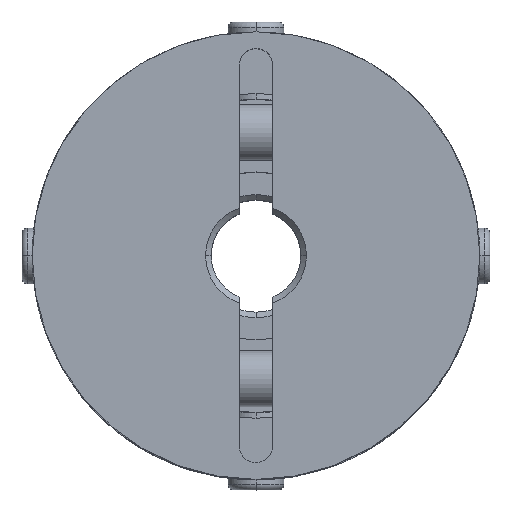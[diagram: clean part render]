
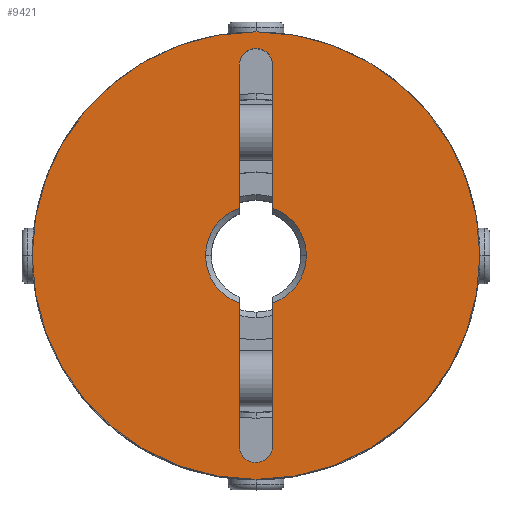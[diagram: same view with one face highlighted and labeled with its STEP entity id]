
A CAD part, top view. The second image highlights one B-rep face of the part: STEP entity #9421.
In plain terms, the highlighted planar face has unit normal (0, 0, 1).
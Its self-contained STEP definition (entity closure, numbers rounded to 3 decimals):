
#993=CARTESIAN_POINT('',(-20.0,0.,20.0));
#994=VERTEX_POINT('',#993);
#1001=CARTESIAN_POINT('',(20.0,0.0,20.0));
#1002=VERTEX_POINT('',#1001);
#1003=CARTESIAN_POINT('',(0.0,0.0,20.0));
#1004=DIRECTION('',(0.0,0.0,-1.0));
#1005=DIRECTION('',(1.0,0.0,0.0));
#1006=AXIS2_PLACEMENT_3D('',#1003,#1004,#1005);
#1007=CIRCLE('',#1006,20.0);
#1008=EDGE_CURVE('',#994,#1002,#1007,.T.);
#1319=CARTESIAN_POINT('',(-1.061,18.061,20.0));
#1320=VERTEX_POINT('',#1319);
#1336=CARTESIAN_POINT('',(1.5,17.,20.0));
#1337=VERTEX_POINT('',#1336);
#1344=CARTESIAN_POINT('',(0.,17.,20.0));
#1345=DIRECTION('',(0.0,0.0,1.));
#1346=DIRECTION('',(0.707,0.707,0.0));
#1347=AXIS2_PLACEMENT_3D('',#1344,#1345,#1346);
#1348=CIRCLE('',#1347,1.5);
#1349=EDGE_CURVE('',#1337,#1320,#1348,.T.);
#1361=CARTESIAN_POINT('',(1.061,-18.061,20.0));
#1362=VERTEX_POINT('',#1361);
#1378=CARTESIAN_POINT('',(-1.5,-17.,20.0));
#1379=VERTEX_POINT('',#1378);
#1386=CARTESIAN_POINT('',(0.0,-17.,20.0));
#1387=DIRECTION('',(0.0,0.0,1.0));
#1388=DIRECTION('',(-0.707,-0.707,0.0));
#1389=AXIS2_PLACEMENT_3D('',#1386,#1387,#1388);
#1390=CIRCLE('',#1389,1.5);
#1391=EDGE_CURVE('',#1379,#1362,#1390,.T.);
#1401=CARTESIAN_POINT('',(-4.5,0.,20.0));
#1402=VERTEX_POINT('',#1401);
#1409=CARTESIAN_POINT('',(-1.5,-4.243,20.0));
#1410=VERTEX_POINT('',#1409);
#1411=CARTESIAN_POINT('',(0.0,0.0,20.0));
#1412=DIRECTION('',(0.0,0.0,1.0));
#1413=DIRECTION('',(-1.0,0.0,0.0));
#1414=AXIS2_PLACEMENT_3D('',#1411,#1412,#1413);
#1415=CIRCLE('',#1414,4.5);
#1416=EDGE_CURVE('',#1402,#1410,#1415,.T.);
#1440=CARTESIAN_POINT('',(4.5,0.,20.0));
#1441=VERTEX_POINT('',#1440);
#1448=CARTESIAN_POINT('',(1.5,4.243,20.0));
#1449=VERTEX_POINT('',#1448);
#1450=CARTESIAN_POINT('',(0.0,0.0,20.0));
#1451=DIRECTION('',(0.0,0.0,1.0));
#1452=DIRECTION('',(1.0,0.0,0.0));
#1453=AXIS2_PLACEMENT_3D('',#1450,#1451,#1452);
#1454=CIRCLE('',#1453,4.5);
#1455=EDGE_CURVE('',#1441,#1449,#1454,.T.);
#9226=CARTESIAN_POINT('',(-1.5,17.,20.0));
#9227=VERTEX_POINT('',#9226);
#9234=CARTESIAN_POINT('',(-1.5,4.243,20.0));
#9235=VERTEX_POINT('',#9234);
#9236=CARTESIAN_POINT('',(-1.5,4.243,20.0));
#9237=DIRECTION('',(0.0,1.0,0.0));
#9238=VECTOR('',#9237,12.757);
#9239=LINE('',#9236,#9238);
#9240=EDGE_CURVE('',#9235,#9227,#9239,.T.);
#9315=CARTESIAN_POINT('',(1.5,17.,20.0));
#9316=DIRECTION('',(0.0,-1.0,0.0));
#9317=VECTOR('',#9316,12.757);
#9318=LINE('',#9315,#9317);
#9319=EDGE_CURVE('',#1337,#1449,#9318,.T.);
#9337=CARTESIAN_POINT('',(1.5,-4.243,20.0));
#9338=VERTEX_POINT('',#9337);
#9352=CARTESIAN_POINT('',(0.0,0.0,20.0));
#9353=DIRECTION('',(0.0,0.0,1.0));
#9354=DIRECTION('',(1.0,0.0,0.0));
#9355=AXIS2_PLACEMENT_3D('',#9352,#9353,#9354);
#9356=CIRCLE('',#9355,4.5);
#9357=EDGE_CURVE('',#9338,#1441,#9356,.T.);
#9362=CARTESIAN_POINT('',(1.818,0.,20.0));
#9363=DIRECTION('',(0.0,0.0,1.0));
#9364=DIRECTION('',(1.0,0.0,0.0));
#9365=AXIS2_PLACEMENT_3D('',#9362,#9363,#9364);
#9366=PLANE('',#9365);
#9367=CARTESIAN_POINT('',(0.0,0.0,20.0));
#9368=DIRECTION('',(0.0,0.0,-1.0));
#9369=DIRECTION('',(1.0,0.0,0.0));
#9370=AXIS2_PLACEMENT_3D('',#9367,#9368,#9369);
#9371=CIRCLE('',#9370,20.0);
#9372=EDGE_CURVE('',#1002,#994,#9371,.T.);
#9373=ORIENTED_EDGE('',*,*,#9372,.F.);
#9374=ORIENTED_EDGE('',*,*,#1008,.F.);
#9375=EDGE_LOOP('',(#9373,#9374));
#9376=FACE_OUTER_BOUND('',#9375,.T.);
#9377=ORIENTED_EDGE('',*,*,#9357,.F.);
#9378=CARTESIAN_POINT('',(1.5,-17.,20.0));
#9379=VERTEX_POINT('',#9378);
#9380=CARTESIAN_POINT('',(1.5,-4.243,20.0));
#9381=DIRECTION('',(0.0,-1.0,0.0));
#9382=VECTOR('',#9381,12.757);
#9383=LINE('',#9380,#9382);
#9384=EDGE_CURVE('',#9338,#9379,#9383,.T.);
#9385=ORIENTED_EDGE('',*,*,#9384,.T.);
#9386=CARTESIAN_POINT('',(0.0,-17.,20.0));
#9387=DIRECTION('',(0.0,0.0,1.0));
#9388=DIRECTION('',(-0.707,-0.707,0.0));
#9389=AXIS2_PLACEMENT_3D('',#9386,#9387,#9388);
#9390=CIRCLE('',#9389,1.5);
#9391=EDGE_CURVE('',#1362,#9379,#9390,.T.);
#9392=ORIENTED_EDGE('',*,*,#9391,.F.);
#9393=ORIENTED_EDGE('',*,*,#1391,.F.);
#9394=CARTESIAN_POINT('',(-1.5,-17.,20.0));
#9395=DIRECTION('',(0.0,1.0,0.0));
#9396=VECTOR('',#9395,12.757);
#9397=LINE('',#9394,#9396);
#9398=EDGE_CURVE('',#1379,#1410,#9397,.T.);
#9399=ORIENTED_EDGE('',*,*,#9398,.T.);
#9400=ORIENTED_EDGE('',*,*,#1416,.F.);
#9401=CARTESIAN_POINT('',(0.0,0.0,20.0));
#9402=DIRECTION('',(0.0,0.0,1.0));
#9403=DIRECTION('',(-1.0,0.0,0.0));
#9404=AXIS2_PLACEMENT_3D('',#9401,#9402,#9403);
#9405=CIRCLE('',#9404,4.5);
#9406=EDGE_CURVE('',#9235,#1402,#9405,.T.);
#9407=ORIENTED_EDGE('',*,*,#9406,.F.);
#9408=ORIENTED_EDGE('',*,*,#9240,.T.);
#9409=CARTESIAN_POINT('',(0.,17.,20.0));
#9410=DIRECTION('',(0.0,0.0,1.));
#9411=DIRECTION('',(0.707,0.707,0.0));
#9412=AXIS2_PLACEMENT_3D('',#9409,#9410,#9411);
#9413=CIRCLE('',#9412,1.5);
#9414=EDGE_CURVE('',#1320,#9227,#9413,.T.);
#9415=ORIENTED_EDGE('',*,*,#9414,.F.);
#9416=ORIENTED_EDGE('',*,*,#1349,.F.);
#9417=ORIENTED_EDGE('',*,*,#9319,.T.);
#9418=ORIENTED_EDGE('',*,*,#1455,.F.);
#9419=EDGE_LOOP('',(#9377,#9385,#9392,#9393,#9399,#9400,#9407,#9408,#9415,#9416,#9417,#9418));
#9420=FACE_BOUND('',#9419,.T.);
#9421=ADVANCED_FACE('',(#9376,#9420),#9366,.T.);
